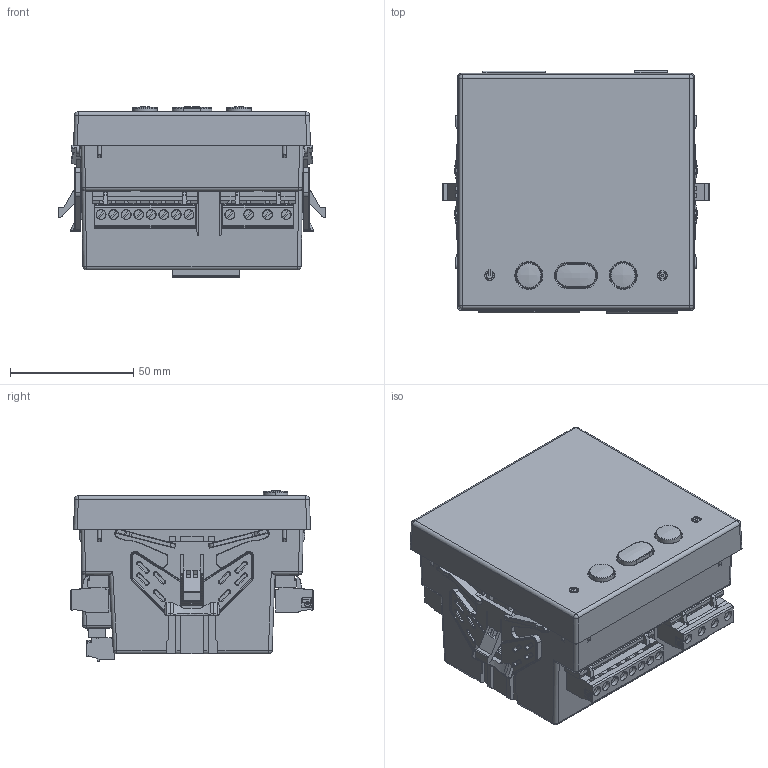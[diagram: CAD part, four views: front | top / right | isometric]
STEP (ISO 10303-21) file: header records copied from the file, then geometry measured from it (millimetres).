
FILE_DESCRIPTION((''),'2;1');
FILE_NAME('CVM-C11-ITF_MC_FLEX-I_SW0001','2023-10-30T08:30:22',('esors'),(''),'CREO PARAMETRIC BY PTC INC, 2018260','CREO PARAMETRIC BY PTC INC, 2018260','');
FILE_SCHEMA(('AUTOMOTIVE_DESIGN { 1 0 10303 214 1 1 1 1 }'));
Products named in the file (1): CVM-C11-ITF_MC_FLEX-I_SW0001
Bounding box: 108 x 98.08 x 69.2 mm (x, y, z)
Volume: 442056.6 mm3; surface area: 119047.1 mm2
Topology: 1 solids, 9 shells, 3562 faces, 10015 edges, 6416 vertices
Faces by surface type: plane 2512, cylinder 768, torus 136, cone 60, sphere 47, bspline 35, extrusion 4
Entity records: 120563 total; most frequent: CARTESIAN_POINT 26180, ORIENTED_EDGE 19978, DIRECTION 18537, EDGE_CURVE 9989, VECTOR 7473, LINE 7469, VERTEX_POINT 6414, AXIS2_PLACEMENT_3D 5532
